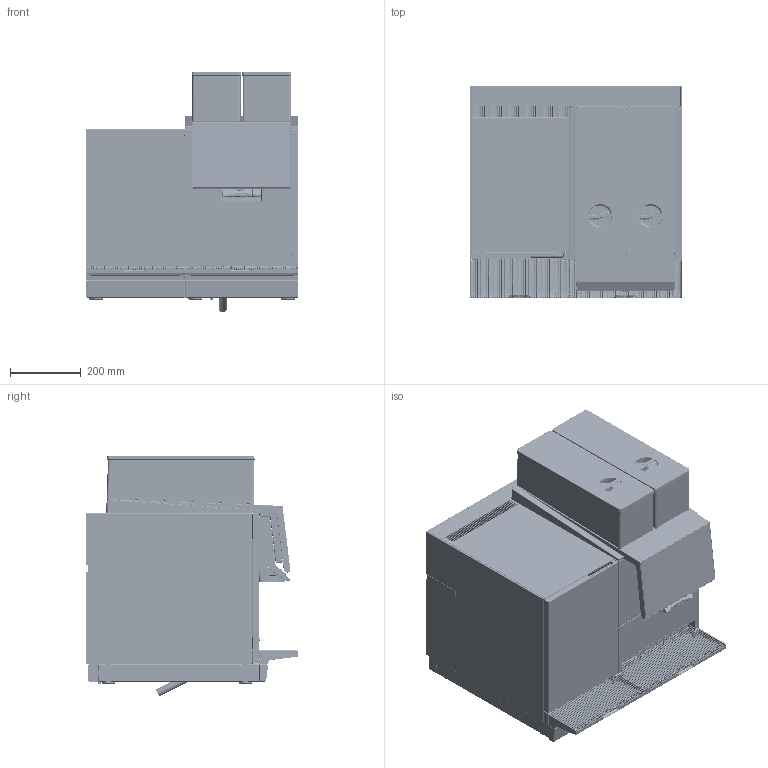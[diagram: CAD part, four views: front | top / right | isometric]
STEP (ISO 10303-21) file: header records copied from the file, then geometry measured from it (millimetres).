
FILE_DESCRIPTION(/* description */ ('Unknown'),/* implementation_level */ '2;1');
FILE_NAME(/* name */ 'BW4_CTM_RL_134136',/* time_stamp */ '2019-09-02T07:37:08+02:00',/* author */ ('Unknown'),/* organization */ ('Unknown'),/* preprocessor_version */ 'ST-DEVELOPER v16.7',/* originating_system */ 'DEX',/* authorisation */ $);
FILE_SCHEMA (('AUTOMOTIVE_DESIGN {1 0 10303 214 3 1 1}'));
Products named in the file (1): 134.136_BW4_CTM-RL_00283277
Bounding box: 601.31 x 599.9 x 679.49 mm (x, y, z)
Surface area: 4849109.6 mm2
Topology: 1 solids, 758 shells, 3667 faces, 24175 edges, 20396 vertices
Faces by surface type: plane 1381, cylinder 1340, torus 436, bspline 299, cone 177, sphere 34
Full cylindrical faces by diameter (mm): 2 x5, 2.5 x244, 3.2 x2, 4 x8, 4.2 x6, 4.8 x1, 5 x1, 5.2 x8, 6 x1, 11 x1, 13 x1, 13.4 x1, 14 x1, 14.5 x1, 16 x2, 16.02 x1, 16.682 x1, 16.9 x1, 17.2 x2, 21.2 x1, 21.7 x1, 22.65 x1, 23.15 x1, 24 x2, 29.5 x1, 30 x6
Entity records: 253680 total; most frequent: CARTESIAN_POINT 82635, DIRECTION 32201, ORIENTED_EDGE 26631, EDGE_CURVE 22592, VERTEX_POINT 19791, LINE 11495, VECTOR 11495, AXIS2_PLACEMENT_3D 10353
